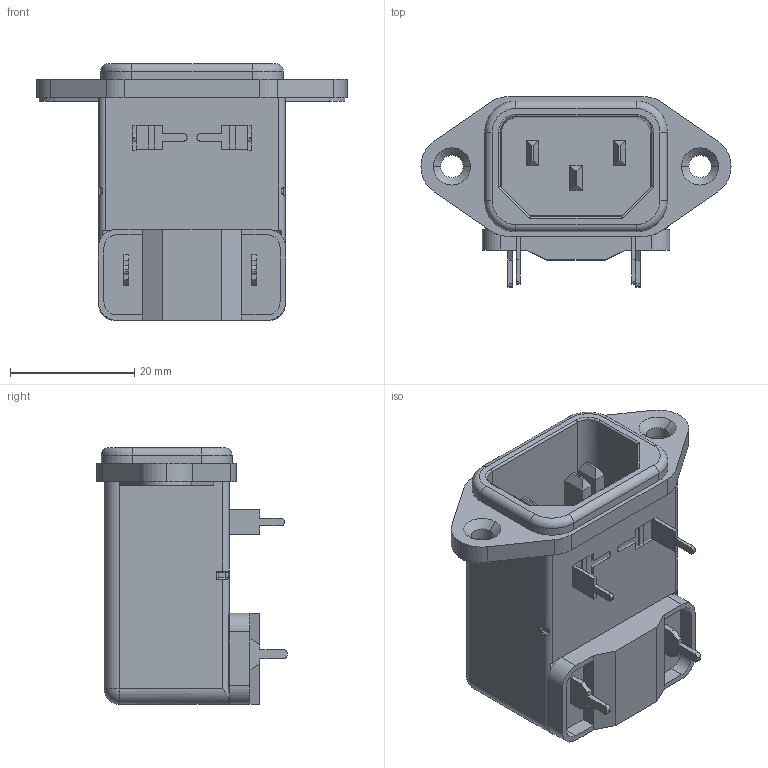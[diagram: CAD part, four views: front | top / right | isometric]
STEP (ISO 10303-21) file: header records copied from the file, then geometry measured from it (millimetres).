
FILE_DESCRIPTION (( 'STEP AP203' ), '1' );
FILE_NAME ('IX-SERIES.STEP', '2015-08-13T02:12:06', ( 'Bitz' ), ( 'Bitz' ), 'SwSTEP 2.0', 'SolidWorks 2008', '' );
FILE_SCHEMA (( 'CONFIG_CONTROL_DESIGN' ));
Length unit declared in the file: millimetre
Products named in the file (4): INLET BODY_晦獄; IX-SERIES; Enclosure D2; Base Body D2
Assembly tree (3 placements, depth 2):
  IX-SERIES
    Enclosure D2
    Base Body D2
    INLET BODY_晦獄
Bounding box: 50 x 30.68 x 41.4 mm (x, y, z)
Volume: 8979.7 mm3; surface area: 14362.3 mm2
Topology: 3 solids, 3 shells, 364 faces, 991 edges, 628 vertices
Faces by surface type: plane 262, cylinder 86, torus 6, sphere 4, cone 4, bspline 2
Entity records: 11805 total; most frequent: CARTESIAN_POINT 2181, ORIENTED_EDGE 1974, DIRECTION 1843, EDGE_CURVE 987, VECTOR 799, LINE 799, VERTEX_POINT 628, AXIS2_PLACEMENT_3D 522
